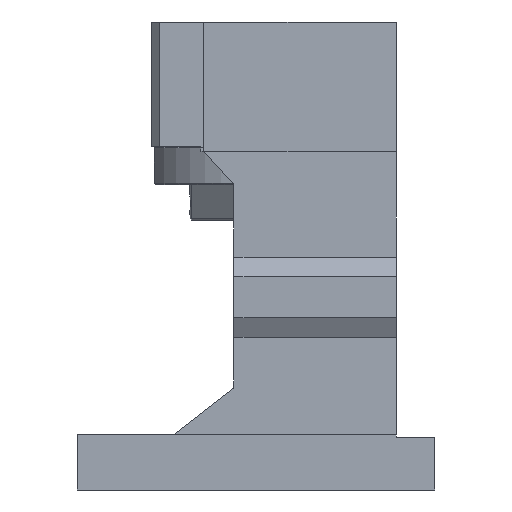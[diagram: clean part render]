
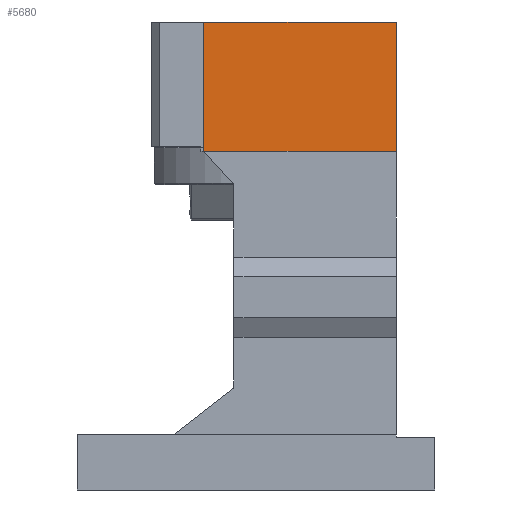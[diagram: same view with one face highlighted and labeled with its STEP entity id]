
A CAD part, left-side view. The second image highlights one B-rep face of the part: STEP entity #5680.
In plain terms, the highlighted planar face has unit normal (-1, 0, 0).
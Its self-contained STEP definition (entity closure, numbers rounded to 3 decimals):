
#36 = FACE_OUTER_BOUND ( 'NONE', #4346, .T. ) ;
#396 = LINE ( 'NONE', #4260, #7110 ) ;
#493 = LINE ( 'NONE', #1761, #7195 ) ;
#679 = CARTESIAN_POINT ( 'NONE',  ( -64., -51., 157. ) ) ;
#737 = DIRECTION ( 'NONE',  ( 0., 0., -1. ) ) ;
#795 = VERTEX_POINT ( 'NONE', #6931 ) ;
#1761 = CARTESIAN_POINT ( 'NONE',  ( -64., 19., 120. ) ) ;
#1776 = DIRECTION ( 'NONE',  ( 0., 0., 1. ) ) ;
#2035 = VECTOR ( 'NONE', #7537, 1000. ) ;
#2285 = ORIENTED_EDGE ( 'NONE', *, *, #6730, .F. ) ;
#2863 = ORIENTED_EDGE ( 'NONE', *, *, #7103, .F. ) ;
#3034 = VECTOR ( 'NONE', #737, 1000. ) ;
#3474 = ORIENTED_EDGE ( 'NONE', *, *, #6621, .F. ) ;
#3571 = ORIENTED_EDGE ( 'NONE', *, *, #6459, .T. ) ;
#3909 = DIRECTION ( 'NONE',  ( 0., -1., 0. ) ) ;
#4129 = AXIS2_PLACEMENT_3D ( 'NONE', #5023, #4996, #4938 ) ;
#4260 = CARTESIAN_POINT ( 'NONE',  ( -64., 39., 123. ) ) ;
#4263 = CARTESIAN_POINT ( 'NONE',  ( -64., 19., 170. ) ) ;
#4346 = EDGE_LOOP ( 'NONE', ( #3571, #3474, #2285, #2863 ) ) ;
#4562 = CARTESIAN_POINT ( 'NONE',  ( -64., -51., 170. ) ) ;
#4575 = LINE ( 'NONE', #679, #3034 ) ;
#4664 = VERTEX_POINT ( 'NONE', #4562 ) ;
#4938 = DIRECTION ( 'NONE',  ( 0., 0., -1. ) ) ;
#4996 = DIRECTION ( 'NONE',  ( 1., 0., 0. ) ) ;
#5023 = CARTESIAN_POINT ( 'NONE',  ( -64., -65., 199.794 ) ) ;
#5143 = PLANE ( 'NONE',  #4129 ) ;
#5510 = LINE ( 'NONE', #6611, #2035 ) ;
#5680 = ADVANCED_FACE ( 'NONE', ( #36 ), #5143, .F. ) ;
#6459 = EDGE_CURVE ( 'NONE', #8063, #795, #396, .T. ) ;
#6611 = CARTESIAN_POINT ( 'NONE',  ( -64., 39., 170. ) ) ;
#6621 = EDGE_CURVE ( 'NONE', #4664, #795, #4575, .T. ) ;
#6730 = EDGE_CURVE ( 'NONE', #7240, #4664, #5510, .T. ) ;
#6931 = CARTESIAN_POINT ( 'NONE',  ( -64., -51., 123. ) ) ;
#7103 = EDGE_CURVE ( 'NONE', #8063, #7240, #493, .T. ) ;
#7110 = VECTOR ( 'NONE', #3909, 1000. ) ;
#7195 = VECTOR ( 'NONE', #1776, 1000. ) ;
#7240 = VERTEX_POINT ( 'NONE', #4263 ) ;
#7537 = DIRECTION ( 'NONE',  ( 0., -1., 0. ) ) ;
#7769 = CARTESIAN_POINT ( 'NONE',  ( -64., 19., 123. ) ) ;
#8063 = VERTEX_POINT ( 'NONE', #7769 ) ;
